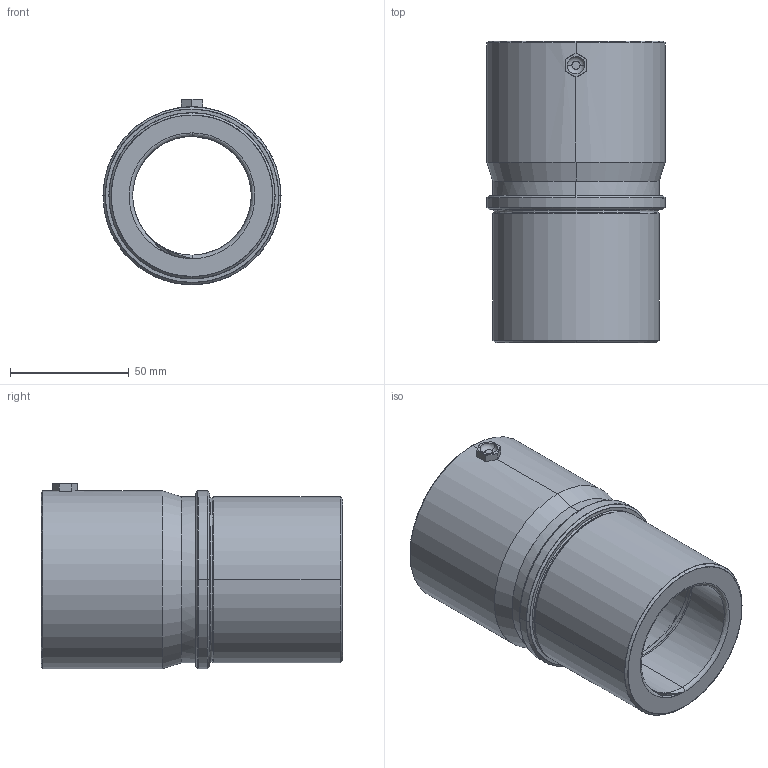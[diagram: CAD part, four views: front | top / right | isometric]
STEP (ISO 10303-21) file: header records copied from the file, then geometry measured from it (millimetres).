
FILE_DESCRIPTION (( 'STEP AP214' ), '1' );
FILE_NAME ('D23_50x127_56.step', '2011-12-24T21:27:03', ( 'Dell' ), ( '' ), 'SwSTEP 2.0', 'SolidWorks 2010', '' );
FILE_SCHEMA (( 'AUTOMOTIVE_DESIGN' ));
Length unit declared in the file: millimetre
Products named in the file (1): D23_50x127_56
Bounding box: 75 x 127 x 78.19 mm (x, y, z)
Volume: 271397.9 mm3; surface area: 57000.2 mm2
Topology: 1 solids, 1 shells, 136 faces, 382 edges, 249 vertices
Faces by surface type: bspline 74, cylinder 31, plane 19, cone 10, torus 2
Entity records: 10168 total; most frequent: CARTESIAN_POINT 7320, ORIENTED_EDGE 760, EDGE_CURVE 380, DIRECTION 362, VERTEX_POINT 249, B_SPLINE_CURVE_WITH_KNOTS 171, EDGE_LOOP 141, FACE_OUTER_BOUND 136
